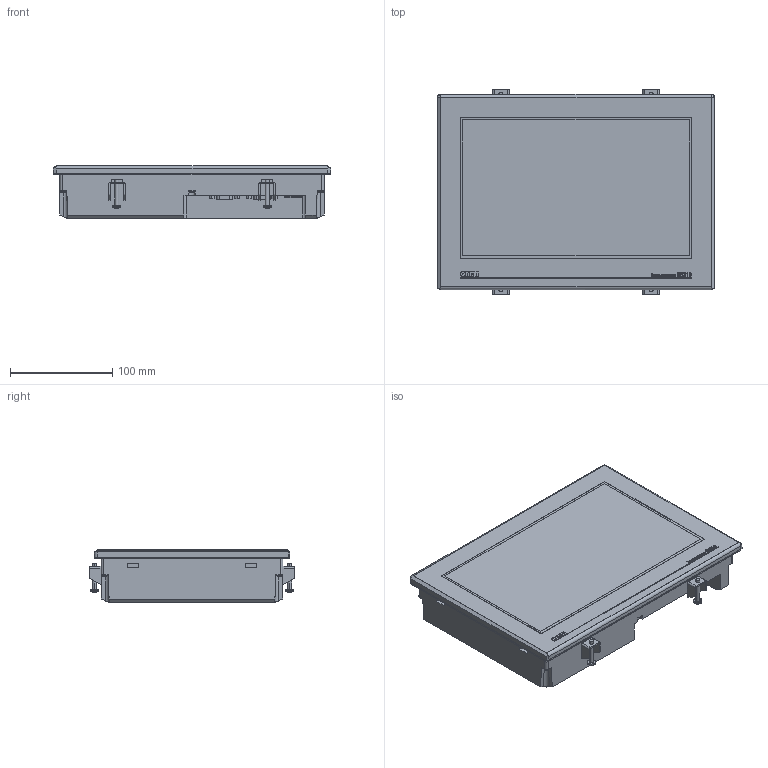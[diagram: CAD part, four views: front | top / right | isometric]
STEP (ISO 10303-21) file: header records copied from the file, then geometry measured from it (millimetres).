
FILE_DESCRIPTION (( 'STEP AP214' ), '1' );
FILE_NAME ('3D ìîäåëü ÑÏ310-Á.STEP', '2017-02-25T11:37:59', ( '' ), ( '' ), 'SwSTEP 2.0', 'SolidWorks 2014', '' );
FILE_SCHEMA (( 'AUTOMOTIVE_DESIGN' ));
Length unit declared in the file: millimetre
Products named in the file (9): pan head cross recess screw_din_ISO 7045 - M4 x 25 - Z --- 25N; Çàæèì ìåòàë; 冓踖樦 2EDGR-5.08-3p; Óïëîòíèòåëü ÑÏ310; USB B; 幄樏歑 9pin; DIP-ïåðåêëþ÷àòåëü 4ïîç; Êîðïóñ ÑÏ310-Á; 3D ìîäåëü ÑÏ310-Á
Assembly tree (15 placements, depth 2):
  3D ìîäåëü ÑÏ310-Á
    Êîðïóñ ÑÏ310-Á
    DIP-ïåðåêëþ÷àòåëü 4ïîç
    幄樏歑 9pin  x2
    USB B
    Óïëîòíèòåëü ÑÏ310
    冓踖樦 2EDGR-5.08-3p
    Çàæèì ìåòàë  x4
    pan head cross recess screw_din_ISO 7045 - M4 x 25 - Z --- 25N  x4
Bounding box: 271 x 200 x 51 mm (x, y, z)
Volume: 2268973.3 mm3; surface area: 183323.6 mm2
Topology: 43 solids, 43 shells, 1360 faces, 3342 edges, 2154 vertices
Faces by surface type: plane 907, cylinder 178, bspline 167, cone 60, torus 40, sphere 8
Entity records: 44475 total; most frequent: CARTESIAN_POINT 12368, ORIENTED_EDGE 5272, DIRECTION 4334, EDGE_CURVE 2636, VECTOR 1806, LINE 1806, VERTEX_POINT 1725, AXIS2_PLACEMENT_3D 1264
